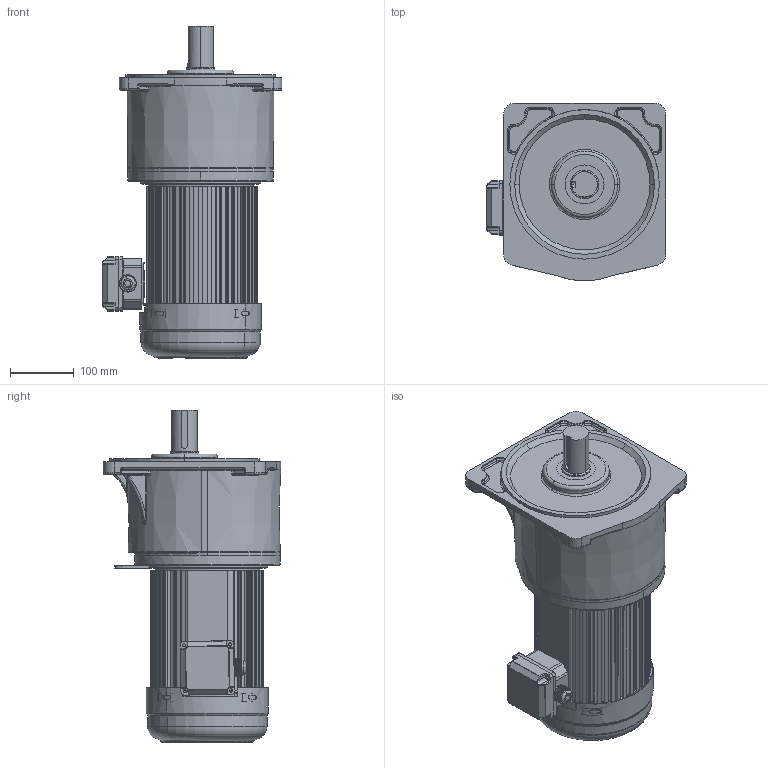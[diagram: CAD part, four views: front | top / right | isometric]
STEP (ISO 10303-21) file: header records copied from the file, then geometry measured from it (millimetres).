
FILE_DESCRIPTION (( 'STEP AP203' ), '1' );
FILE_NAME ('2200W饜5#湍价陬蕾宒.STEP', '2020-04-18T01:43:56', ( 'china' ), ( 'china' ), 'SwSTEP 2.0', 'SolidWorks 2019', '' );
FILE_SCHEMA (( 'CONFIG_CONTROL_DESIGN' ));
Length unit declared in the file: millimetre
Products named in the file (10): 蜊輛綴諉盄碟釱3; 怀堤粣; 諉芛; 2200W饜5#湍价陬蕾宒; 2200W儂褲; 1500W棠憤迖殤; 湍价陬諉盄碟裔; 5-1500w2200wxianggai; 瑞欶; 5-lishixiangti
Assembly tree (9 placements, depth 2):
  2200W饜5#湍价陬蕾宒
    瑞欶
    蜊輛綴諉盄碟釱3
    諉芛
    2200W儂褲
    1500W棠憤迖殤
    湍价陬諉盄碟裔
    5-1500w2200wxianggai
    5-lishixiangti
    怀堤粣
Bounding box: 281.09 x 277.99 x 519.98 mm (x, y, z)
Volume: 3900085.6 mm3; surface area: 1267105 mm2
Topology: 9 solids, 20 shells, 3151 faces, 8346 edges, 5250 vertices
Faces by surface type: plane 1194, cylinder 1158, bspline 464, torus 250, sphere 54, cone 31
Entity records: 131600 total; most frequent: CARTESIAN_POINT 54516, ORIENTED_EDGE 16566, DIRECTION 15148, EDGE_CURVE 8283, AXIS2_PLACEMENT_3D 5509, VERTEX_POINT 5235, VECTOR 4130, LINE 4130
